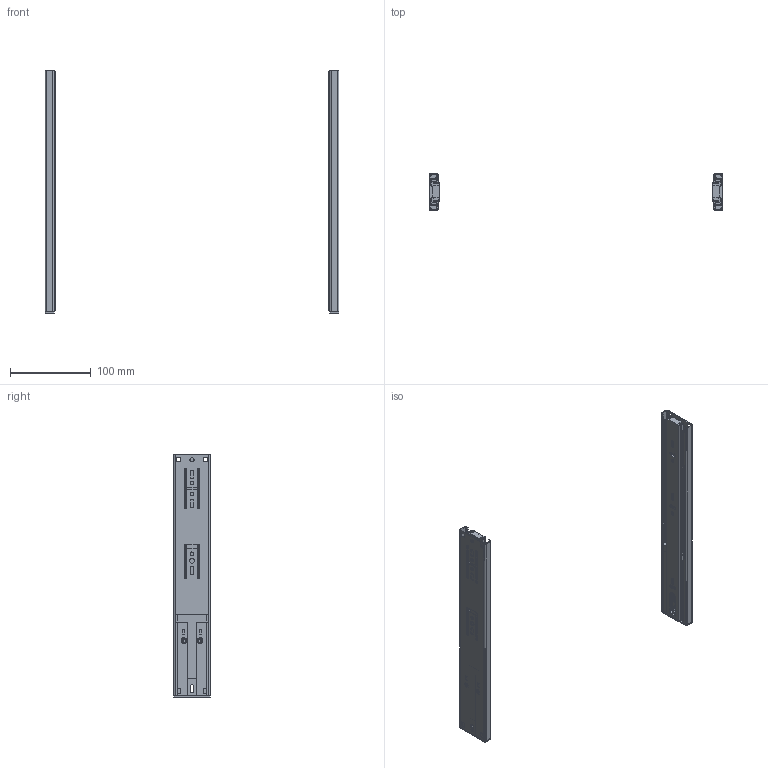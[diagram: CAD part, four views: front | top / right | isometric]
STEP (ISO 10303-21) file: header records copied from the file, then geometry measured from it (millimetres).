
FILE_DESCRIPTION(/* description */ (''),/* implementation_level */ '2;1');
FILE_NAME(/* name */ 'D:\$Workingspace\Designs\Katalog\Cadsoft\GTV Prowadnice\Prowadnice GTV_bryły 3D\PK-L-H45-300-A.stp',/* time_stamp */ '2016-11-22T14:18:01+01:00',/* author */ ('tomaszw'),/* organization */ (''),/* preprocessor_version */ 'ST-DEVELOPER v16.1',/* originating_system */ 'Autodesk Inventor 2016',/* authorisation */ '');
FILE_SCHEMA (('AUTOMOTIVE_DESIGN { 1 0 10303 214 3 1 1 }'));
Length unit declared in the file: millimetre
Products named in the file (6): PK-L-H45_1-300-A; PK-L-H45_2-300-A; PK-L-H45_3-300-A; PK-L-H45_4-_-A; PK-L-H45_5-_-A; PK-L-H45-_-A
Assembly tree (10 placements, depth 2):
  PK-L-H45-_-A
    PK-L-H45_1-300-A  x2
    PK-L-H45_2-300-A  x2
    PK-L-H45_3-300-A  x2
    PK-L-H45_4-_-A  x2
    PK-L-H45_5-_-A  x2
Bounding box: 364 x 45.5 x 300 mm (x, y, z)
Volume: 138976.4 mm3; surface area: 196170.5 mm2
Topology: 12 solids, 12 shells, 578 faces, 1670 edges, 1112 vertices
Faces by surface type: plane 350, cylinder 228
Full cylindrical faces by diameter (mm): 4.2 x4, 4.5 x10, 6.2 x2, 7.2 x4
Entity records: 10075 total; most frequent: CARTESIAN_POINT 1771, DIRECTION 1653, ORIENTED_EDGE 1646, EDGE_CURVE 823, LINE 589, VECTOR 589, VERTEX_POINT 554, AXIS2_PLACEMENT_3D 532
